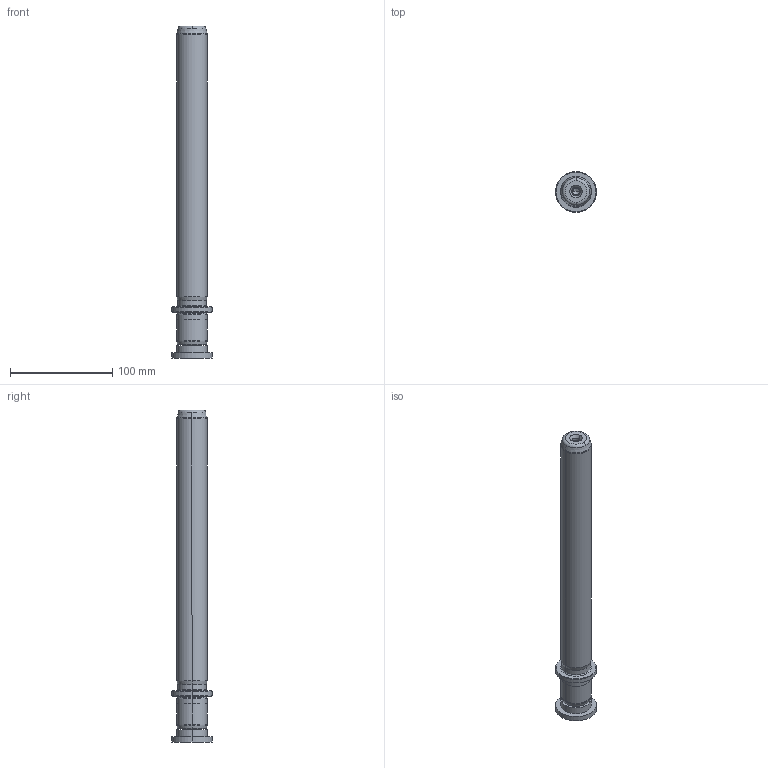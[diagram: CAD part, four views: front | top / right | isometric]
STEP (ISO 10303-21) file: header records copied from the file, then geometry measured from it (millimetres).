
FILE_DESCRIPTION((''),'2;1');
FILE_NAME('P22_030_280.stp','2009-02-03T10:22:27',(''),(''),'Mechanical Desktop 2009','Mechanical Desktop 2009',', , ');
FILE_SCHEMA(('CONFIG_CONTROL_DESIGN'));
Length unit declared in the file: millimetre
Products named in the file (2): Product; blmdl1
Assembly tree (1 placements, depth 2):
  Product
    blmdl1
Bounding box: 40 x 40 x 325 mm (x, y, z)
Volume: 230741.5 mm3; surface area: 38040.9 mm2
Topology: 3 solids, 3 shells, 99 faces, 237 edges, 149 vertices
Faces by surface type: cylinder 32, cone 28, plane 19, torus 10, bspline 10
Entity records: 3419 total; most frequent: CARTESIAN_POINT 923, DIRECTION 570, ORIENTED_EDGE 466, AXIS2_PLACEMENT_3D 246, EDGE_CURVE 233, CIRCLE 155, VERTEX_POINT 149, EDGE_LOOP 110
